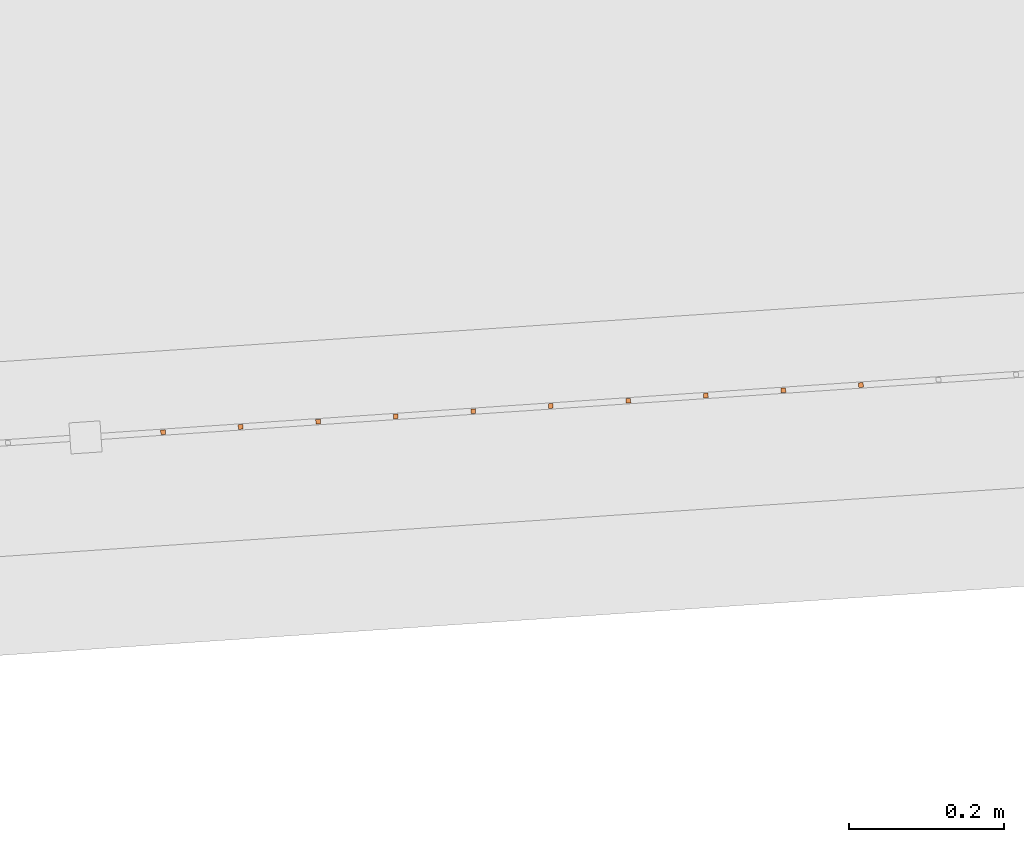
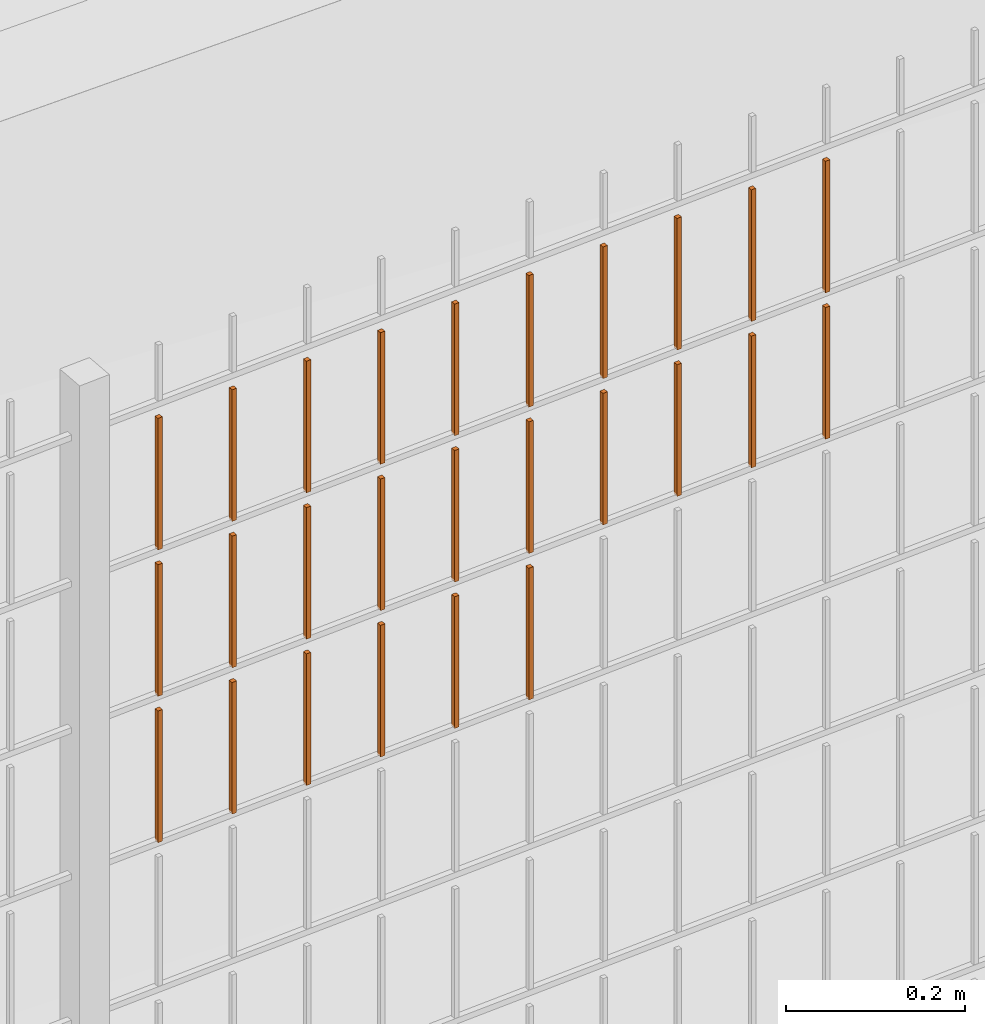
# One storey, part 354 of 1809: 26 proxies, 1 element without a shape of its own.
"""IFC2X3 building model written with IfcOpenShell, lengths in millimetres."""

from ifc_helpers import new_model, entity, si_unit, converted_unit, derived_unit, money_unit, direction, frame, origin_with_axes, place, context, subcontext, project, spatial, faceted_brep, source, transform, mapped, material, type_object, element, aggregate, save


model = new_model("IFC2X3")

# Units and contexts
model_context = context("Model", 3, precision=0.01, world=origin_with_axes(), true_north=direction((0.0, 1.0)))
body_context = subcontext(model_context, "Body", "Model", "MODEL_VIEW")
ifc_project = project(units=[si_unit("LENGTHUNIT", "METRE", prefix="MILLI"), si_unit("AREAUNIT", "SQUARE_METRE"), si_unit("VOLUMEUNIT", "CUBIC_METRE"), converted_unit("PLANEANGLEUNIT", "DEGREE", entity("IfcPlaneAngleMeasure", 0.0174532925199), si_unit("PLANEANGLEUNIT", "RADIAN"), dimensions=[0, 0, 0, 0, 0, 0, 0]), si_unit("SOLIDANGLEUNIT", "STERADIAN"), money_unit("EUR"), converted_unit("TIMEUNIT", "Year", entity("IfcTimeMeasure", 31556926.0), si_unit("TIMEUNIT", "SECOND"), dimensions=[0, 0, 1, 0, 0, 0, 0]), si_unit("MASSUNIT", "GRAM", prefix="KILO"), si_unit("THERMODYNAMICTEMPERATUREUNIT", "DEGREE_CELSIUS"), si_unit("LUMINOUSINTENSITYUNIT", "LUMEN"), si_unit("ENERGYUNIT", "JOULE", prefix="MEGA"), derived_unit("THERMALCONDUCTANCEUNIT", [(si_unit("POWERUNIT", "WATT"), 1), (si_unit("LENGTHUNIT", "METRE"), -1), (si_unit("THERMODYNAMICTEMPERATUREUNIT", "KELVIN"), -1)]), derived_unit("SPECIFICHEATCAPACITYUNIT", [(si_unit("ENERGYUNIT", "JOULE"), 1), (si_unit("MASSUNIT", "GRAM", prefix="KILO"), -1), (si_unit("THERMODYNAMICTEMPERATUREUNIT", "KELVIN"), -1)]), derived_unit("MASSDENSITYUNIT", [(si_unit("MASSUNIT", "GRAM", prefix="KILO"), 1), (si_unit("VOLUMEUNIT", "CUBIC_METRE"), -1)])], contexts=[model_context])

# Site, building, storey
site_placement = place(None, origin_with_axes())
site = spatial("IfcSite", under=ifc_project, at=site_placement, Name="Politse- ja Piirivalveameti ning Päästeameti ühishoone", CompositionType="ELEMENT")
building_placement = place(site_placement, origin_with_axes())
building = spatial("IfcBuilding", under=site, at=building_placement, Name="Politse- ja Piirivalveameti ning Päästeameti ühishoone", CompositionType="ELEMENT")
storey_placement = place(building_placement, origin_with_axes())
storey = spatial("IfcBuildingStorey", under=building, at=storey_placement, Name="Esimene korrus", CompositionType="ELEMENT", Elevation=0.0)

# Proxies
building_element_proxy_type_1 = type_object("IfcBuildingElementProxyType", Name="Railing Type", PredefinedType="NOTDEFINED")
proxy_1_placement = place(storey_placement, frame((89252.001212, -29183.4766571, 203.661247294), z_axis=(0.0, 0.0, 1.0), x_axis=(1.0, 0.0, 0.0)))
proxy_1 = element("IfcBuildingElementProxy", 1, at=proxy_1_placement, inside=storey, type_object=building_element_proxy_type_1, Name="PIIRDEAED")
ifc_material = material(Name="ET-03_Raud")
building_element_proxy_type_2 = type_object("IfcBuildingElementProxyType", Name="IfcBuildingElementProxy", PredefinedType="NOTDEFINED")
shared_shape_1 = source(origin_with_axes(), body_context, "Body", "Brep", [
    faceted_brep([(3.0, 3.0, -0.000752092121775), (-3.0, 3.0, -0.000752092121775), (-3.0, 3.0, 179.99926046), (3.0, 3.0, 179.99926046), (3.0, -3.0, 0.000752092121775), (-3.0, -3.0, 0.000752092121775), (-3.0, -3.0, 180.000764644), (3.0, -3.0, 180.000764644)], [[[0, 1, 2, 3]], [[0, 4, 5, 1]], [[1, 5, 6, 2]], [[3, 2, 6, 7]], [[4, 0, 3, 7]], [[5, 4, 7, 6]]]),
])
proxy_2_placement = place(proxy_1_placement, frame((-26865.4709585, -19112.4359382, 1420.48393555), z_axis=(0.0, 0.0, 1.0), x_axis=(1.0, 0.0, 0.0)))
proxy_2 = element("IfcBuildingElementProxy", 2, at=proxy_2_placement, type_object=building_element_proxy_type_2, material=ifc_material, Name="BALUSTER - 001", context=body_context, shape_type="MappedRepresentation", body=[
    mapped(shared_shape_1, transform((0.0, 0.0, 0.0), x_axis=(-0.0673926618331, 0.997726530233, 0.0), y_axis=(-0.997726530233, -0.0673926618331, 0.0), z_axis=(0.0, 0.0, 1.0))),
])
shared_shape_2 = source(origin_with_axes(), body_context, "Body", "Brep", [
    faceted_brep([(3.0, 3.0, -0.000752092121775), (-3.0, 3.0, -0.000752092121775), (-3.0, 3.0, 179.99926046), (3.0, 3.0, 179.99926046), (3.0, -3.0, 0.000752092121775), (-3.0, -3.0, 0.000752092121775), (-3.0, -3.0, 180.000764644), (3.0, -3.0, 180.000764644)], [[[0, 1, 2, 3]], [[0, 4, 5, 1]], [[1, 5, 6, 2]], [[3, 2, 6, 7]], [[4, 0, 3, 7]], [[5, 4, 7, 6]]]),
])
proxy_3_placement = place(proxy_1_placement, frame((-26865.4709585, -19112.4359382, 1820.48393555), z_axis=(0.0, 0.0, 1.0), x_axis=(1.0, 0.0, 0.0)))
proxy_3 = element("IfcBuildingElementProxy", 3, at=proxy_3_placement, type_object=building_element_proxy_type_2, material=ifc_material, Name="BALUSTER - 001", context=body_context, shape_type="MappedRepresentation", body=[
    mapped(shared_shape_2, transform((0.0, 0.0, 0.0), x_axis=(-0.0673926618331, 0.997726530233, 0.0), y_axis=(-0.997726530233, -0.0673926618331, 0.0), z_axis=(0.0, 0.0, 1.0))),
])
shared_shape_3 = source(origin_with_axes(), body_context, "Body", "Brep", [
    faceted_brep([(3.0, 3.0, -0.000752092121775), (-3.0, 3.0, -0.000752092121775), (-3.0, 3.0, 179.99926046), (3.0, 3.0, 179.99926046), (3.0, -3.0, 0.000752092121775), (-3.0, -3.0, 0.000752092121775), (-3.0, -3.0, 180.000764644), (3.0, -3.0, 180.000764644)], [[[0, 1, 2, 3]], [[0, 4, 5, 1]], [[1, 5, 6, 2]], [[3, 2, 6, 7]], [[4, 0, 3, 7]], [[5, 4, 7, 6]]]),
])
proxy_4_placement = place(proxy_1_placement, frame((-26865.4709585, -19112.4359382, 1620.48393555), z_axis=(0.0, 0.0, 1.0), x_axis=(1.0, 0.0, 0.0)))
proxy_4 = element("IfcBuildingElementProxy", 4, at=proxy_4_placement, type_object=building_element_proxy_type_2, material=ifc_material, Name="BALUSTER - 001", context=body_context, shape_type="MappedRepresentation", body=[
    mapped(shared_shape_3, transform((0.0, 0.0, 0.0), x_axis=(-0.0673926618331, 0.997726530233, 0.0), y_axis=(-0.997726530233, -0.0673926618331, 0.0), z_axis=(0.0, 0.0, 1.0))),
])
shared_shape_4 = source(origin_with_axes(), body_context, "Body", "Brep", [
    faceted_brep([(3.0, 3.0, -0.000752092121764), (-3.0, 3.0, -0.000752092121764), (-3.0, 3.0, 179.99926046), (3.0, 3.0, 179.99926046), (3.0, -3.0, 0.000752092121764), (-3.0, -3.0, 0.000752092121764), (-3.0, -3.0, 180.000764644), (3.0, -3.0, 180.000764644)], [[[0, 1, 2, 3]], [[0, 4, 5, 1]], [[1, 5, 6, 2]], [[3, 2, 6, 7]], [[4, 0, 3, 7]], [[5, 4, 7, 6]]]),
])
proxy_5_placement = place(proxy_1_placement, frame((-26965.2436115, -19119.1752044, 1420.45886581), z_axis=(0.0, 0.0, 1.0), x_axis=(1.0, 0.0, 0.0)))
proxy_5 = element("IfcBuildingElementProxy", 5, at=proxy_5_placement, type_object=building_element_proxy_type_2, material=ifc_material, Name="BALUSTER - 001", context=body_context, shape_type="MappedRepresentation", body=[
    mapped(shared_shape_4, transform((0.0, 0.0, 0.0), x_axis=(-0.0673926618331, 0.997726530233, 0.0), y_axis=(-0.997726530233, -0.0673926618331, 0.0), z_axis=(0.0, 0.0, 1.0))),
])
shared_shape_5 = source(origin_with_axes(), body_context, "Body", "Brep", [
    faceted_brep([(3.0, 3.0, -0.000752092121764), (-3.0, 3.0, -0.000752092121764), (-3.0, 3.0, 179.99926046), (3.0, 3.0, 179.99926046), (3.0, -3.0, 0.000752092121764), (-3.0, -3.0, 0.000752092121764), (-3.0, -3.0, 180.000764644), (3.0, -3.0, 180.000764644)], [[[0, 1, 2, 3]], [[0, 4, 5, 1]], [[1, 5, 6, 2]], [[3, 2, 6, 7]], [[4, 0, 3, 7]], [[5, 4, 7, 6]]]),
])
proxy_6_placement = place(proxy_1_placement, frame((-26765.6983054, -19105.696672, 1820.50900529), z_axis=(0.0, 0.0, 1.0), x_axis=(1.0, 0.0, 0.0)))
proxy_6 = element("IfcBuildingElementProxy", 6, at=proxy_6_placement, type_object=building_element_proxy_type_2, material=ifc_material, Name="BALUSTER - 001", context=body_context, shape_type="MappedRepresentation", body=[
    mapped(shared_shape_5, transform((0.0, 0.0, 0.0), x_axis=(-0.0673926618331, 0.997726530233, 0.0), y_axis=(-0.997726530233, -0.0673926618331, 0.0), z_axis=(0.0, 0.0, 1.0))),
])
shared_shape_6 = source(origin_with_axes(), body_context, "Body", "Brep", [
    faceted_brep([(3.0, 3.0, -0.000752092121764), (-3.0, 3.0, -0.000752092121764), (-3.0, 3.0, 179.99926046), (3.0, 3.0, 179.99926046), (3.0, -3.0, 0.000752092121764), (-3.0, -3.0, 0.000752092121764), (-3.0, -3.0, 180.000764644), (3.0, -3.0, 180.000764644)], [[[0, 1, 2, 3]], [[0, 4, 5, 1]], [[1, 5, 6, 2]], [[3, 2, 6, 7]], [[4, 0, 3, 7]], [[5, 4, 7, 6]]]),
])
proxy_7_placement = place(proxy_1_placement, frame((-26965.2436115, -19119.1752044, 1820.45886581), z_axis=(0.0, 0.0, 1.0), x_axis=(1.0, 0.0, 0.0)))
proxy_7 = element("IfcBuildingElementProxy", 7, at=proxy_7_placement, type_object=building_element_proxy_type_2, material=ifc_material, Name="BALUSTER - 001", context=body_context, shape_type="MappedRepresentation", body=[
    mapped(shared_shape_6, transform((0.0, 0.0, 0.0), x_axis=(-0.0673926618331, 0.997726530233, 0.0), y_axis=(-0.997726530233, -0.0673926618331, 0.0), z_axis=(0.0, 0.0, 1.0))),
])
shared_shape_7 = source(origin_with_axes(), body_context, "Body", "Brep", [
    faceted_brep([(3.0, 3.0, -0.000752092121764), (-3.0, 3.0, -0.000752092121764), (-3.0, 3.0, 179.99926046), (3.0, 3.0, 179.99926046), (3.0, -3.0, 0.000752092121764), (-3.0, -3.0, 0.000752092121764), (-3.0, -3.0, 180.000764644), (3.0, -3.0, 180.000764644)], [[[0, 1, 2, 3]], [[0, 4, 5, 1]], [[1, 5, 6, 2]], [[3, 2, 6, 7]], [[4, 0, 3, 7]], [[5, 4, 7, 6]]]),
])
proxy_8_placement = place(proxy_1_placement, frame((-26566.1529994, -19092.2181397, 1820.55914476), z_axis=(0.0, 0.0, 1.0), x_axis=(1.0, 0.0, 0.0)))
proxy_8 = element("IfcBuildingElementProxy", 8, at=proxy_8_placement, type_object=building_element_proxy_type_2, material=ifc_material, Name="BALUSTER - 001", context=body_context, shape_type="MappedRepresentation", body=[
    mapped(shared_shape_7, transform((0.0, 0.0, 0.0), x_axis=(-0.0673926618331, 0.997726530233, 0.0), y_axis=(-0.997726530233, -0.0673926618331, 0.0), z_axis=(0.0, 0.0, 1.0))),
])
shared_shape_8 = source(origin_with_axes(), body_context, "Body", "Brep", [
    faceted_brep([(3.0, 3.0, -0.000752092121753), (-3.0, 3.0, -0.000752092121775), (-3.0, 3.0, 179.99926046), (3.0, 3.0, 179.99926046), (3.0, -3.0, 0.000752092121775), (-3.0, -3.0, 0.000752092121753), (-3.0, -3.0, 180.000764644), (3.0, -3.0, 180.000764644)], [[[0, 1, 2, 3]], [[0, 4, 5, 1]], [[1, 5, 6, 2]], [[3, 2, 6, 7]], [[4, 0, 3, 7]], [[5, 4, 7, 6]]]),
])
proxy_9_placement = place(proxy_1_placement, frame((-26466.3803464, -19085.4788735, 1820.5842145), z_axis=(0.0, 0.0, 1.0), x_axis=(1.0, 0.0, 0.0)))
proxy_9 = element("IfcBuildingElementProxy", 9, at=proxy_9_placement, type_object=building_element_proxy_type_2, material=ifc_material, Name="BALUSTER - 001", context=body_context, shape_type="MappedRepresentation", body=[
    mapped(shared_shape_8, transform((0.0, 0.0, 0.0), x_axis=(-0.0673926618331, 0.997726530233, 0.0), y_axis=(-0.997726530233, -0.0673926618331, 0.0), z_axis=(0.0, 0.0, 1.0))),
])
shared_shape_9 = source(origin_with_axes(), body_context, "Body", "Brep", [
    faceted_brep([(3.0, 3.0, -0.000752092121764), (-3.0, 3.0, -0.000752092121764), (-3.0, 3.0, 179.99926046), (3.0, 3.0, 179.99926046), (3.0, -3.0, 0.000752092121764), (-3.0, -3.0, 0.000752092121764), (-3.0, -3.0, 180.000764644), (3.0, -3.0, 180.000764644)], [[[0, 1, 2, 3]], [[0, 4, 5, 1]], [[1, 5, 6, 2]], [[3, 2, 6, 7]], [[4, 0, 3, 7]], [[5, 4, 7, 6]]]),
])
proxy_10_placement = place(proxy_1_placement, frame((-26566.1529994, -19092.2181397, 1620.55914476), z_axis=(0.0, 0.0, 1.0), x_axis=(1.0, 0.0, 0.0)))
proxy_10 = element("IfcBuildingElementProxy", 10, at=proxy_10_placement, type_object=building_element_proxy_type_2, material=ifc_material, Name="BALUSTER - 001", context=body_context, shape_type="MappedRepresentation", body=[
    mapped(shared_shape_9, transform((0.0, 0.0, 0.0), x_axis=(-0.0673926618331, 0.997726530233, 0.0), y_axis=(-0.997726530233, -0.0673926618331, 0.0), z_axis=(0.0, 0.0, 1.0))),
])
shared_shape_10 = source(origin_with_axes(), body_context, "Body", "Brep", [
    faceted_brep([(3.0, 3.0, -0.000752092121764), (-3.0, 3.0, -0.000752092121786), (-3.0, 3.0, 179.99926046), (3.0, 3.0, 179.99926046), (3.0, -3.0, 0.000752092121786), (-3.0, -3.0, 0.000752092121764), (-3.0, -3.0, 180.000764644), (3.0, -3.0, 180.000764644)], [[[0, 1, 2, 3]], [[0, 4, 5, 1]], [[1, 5, 6, 2]], [[3, 2, 6, 7]], [[4, 0, 3, 7]], [[5, 4, 7, 6]]]),
])
proxy_11_placement = place(proxy_1_placement, frame((-27164.7889175, -19132.6537368, 1820.40872634), z_axis=(0.0, 0.0, 1.0), x_axis=(1.0, 0.0, 0.0)))
proxy_11 = element("IfcBuildingElementProxy", 11, at=proxy_11_placement, type_object=building_element_proxy_type_2, material=ifc_material, Name="BALUSTER - 001", context=body_context, shape_type="MappedRepresentation", body=[
    mapped(shared_shape_10, transform((0.0, 0.0, 0.0), x_axis=(-0.0673926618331, 0.997726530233, 0.0), y_axis=(-0.997726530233, -0.0673926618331, 0.0), z_axis=(0.0, 0.0, 1.0))),
])
shared_shape_11 = source(origin_with_axes(), body_context, "Body", "Brep", [
    faceted_brep([(3.0, 3.0, -0.000752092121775), (-3.0, 3.0, -0.000752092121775), (-3.0, 3.0, 179.99926046), (3.0, 3.0, 179.99926046), (3.0, -3.0, 0.000752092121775), (-3.0, -3.0, 0.000752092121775), (-3.0, -3.0, 180.000764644), (3.0, -3.0, 180.000764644)], [[[0, 1, 2, 3]], [[0, 4, 5, 1]], [[1, 5, 6, 2]], [[3, 2, 6, 7]], [[4, 0, 3, 7]], [[5, 4, 7, 6]]]),
])
proxy_12_placement = place(proxy_1_placement, frame((-26266.8350403, -19072.0003411, 1820.63435397), z_axis=(0.0, 0.0, 1.0), x_axis=(1.0, 0.0, 0.0)))
proxy_12 = element("IfcBuildingElementProxy", 12, at=proxy_12_placement, type_object=building_element_proxy_type_2, material=ifc_material, Name="BALUSTER - 001", context=body_context, shape_type="MappedRepresentation", body=[
    mapped(shared_shape_11, transform((0.0, 0.0, 0.0), x_axis=(-0.0673926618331, 0.997726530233, 0.0), y_axis=(-0.997726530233, -0.0673926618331, 0.0), z_axis=(0.0, 0.0, 1.0))),
])
shared_shape_12 = source(origin_with_axes(), body_context, "Body", "Brep", [
    faceted_brep([(3.0, 3.0, -0.000752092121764), (-3.0, 3.0, -0.000752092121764), (-3.0, 3.0, 179.99926046), (3.0, 3.0, 179.99926046), (3.0, -3.0, 0.000752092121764), (-3.0, -3.0, 0.000752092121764), (-3.0, -3.0, 180.000764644), (3.0, -3.0, 180.000764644)], [[[0, 1, 2, 3]], [[0, 4, 5, 1]], [[1, 5, 6, 2]], [[3, 2, 6, 7]], [[4, 0, 3, 7]], [[5, 4, 7, 6]]]),
])
proxy_13_placement = place(proxy_1_placement, frame((-26765.6983054, -19105.696672, 1420.50900529), z_axis=(0.0, 0.0, 1.0), x_axis=(1.0, 0.0, 0.0)))
proxy_13 = element("IfcBuildingElementProxy", 13, at=proxy_13_placement, type_object=building_element_proxy_type_2, material=ifc_material, Name="BALUSTER - 001", context=body_context, shape_type="MappedRepresentation", body=[
    mapped(shared_shape_12, transform((0.0, 0.0, 0.0), x_axis=(-0.0673926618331, 0.997726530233, 0.0), y_axis=(-0.997726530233, -0.0673926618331, 0.0), z_axis=(0.0, 0.0, 1.0))),
])
proxy_14_placement = place(proxy_1_placement, frame((-26765.6983054, -19105.696672, 1620.50900529), z_axis=(0.0, 0.0, 1.0), x_axis=(1.0, 0.0, 0.0)))
proxy_14 = element("IfcBuildingElementProxy", 14, at=proxy_14_placement, type_object=building_element_proxy_type_2, material=ifc_material, Name="BALUSTER - 001", context=body_context, shape_type="MappedRepresentation", body=[
    mapped(shared_shape_12, transform((0.0, 0.0, 0.0), x_axis=(-0.0673926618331, 0.997726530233, 0.0), y_axis=(-0.997726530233, -0.0673926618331, 0.0), z_axis=(0.0, 0.0, 1.0))),
])
shared_shape_13 = source(origin_with_axes(), body_context, "Body", "Brep", [
    faceted_brep([(3.0, 3.0, -0.000752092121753), (-3.0, 3.0, -0.000752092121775), (-3.0, 3.0, 179.99926046), (3.0, 3.0, 179.99926046), (3.0, -3.0, 0.000752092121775), (-3.0, -3.0, 0.000752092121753), (-3.0, -3.0, 180.000764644), (3.0, -3.0, 180.000764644)], [[[0, 1, 2, 3]], [[0, 4, 5, 1]], [[1, 5, 6, 2]], [[3, 2, 6, 7]], [[4, 0, 3, 7]], [[5, 4, 7, 6]]]),
])
proxy_15_placement = place(proxy_1_placement, frame((-26366.6076933, -19078.7396073, 1620.60928423), z_axis=(0.0, 0.0, 1.0), x_axis=(1.0, 0.0, 0.0)))
proxy_15 = element("IfcBuildingElementProxy", 15, at=proxy_15_placement, type_object=building_element_proxy_type_2, material=ifc_material, Name="BALUSTER - 001", context=body_context, shape_type="MappedRepresentation", body=[
    mapped(shared_shape_13, transform((0.0, 0.0, 0.0), x_axis=(-0.0673926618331, 0.997726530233, 0.0), y_axis=(-0.997726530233, -0.0673926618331, 0.0), z_axis=(0.0, 0.0, 1.0))),
])
shared_shape_14 = source(origin_with_axes(), body_context, "Body", "Brep", [
    faceted_brep([(3.0, 3.0, -0.000752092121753), (-3.0, 3.0, -0.000752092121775), (-3.0, 3.0, 179.99926046), (3.0, 3.0, 179.99926046), (3.0, -3.0, 0.000752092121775), (-3.0, -3.0, 0.000752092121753), (-3.0, -3.0, 180.000764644), (3.0, -3.0, 180.000764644)], [[[0, 1, 2, 3]], [[0, 4, 5, 1]], [[1, 5, 6, 2]], [[3, 2, 6, 7]], [[4, 0, 3, 7]], [[5, 4, 7, 6]]]),
])
proxy_16_placement = place(proxy_1_placement, frame((-26466.3803464, -19085.4788735, 1620.5842145), z_axis=(0.0, 0.0, 1.0), x_axis=(1.0, 0.0, 0.0)))
proxy_16 = element("IfcBuildingElementProxy", 16, at=proxy_16_placement, type_object=building_element_proxy_type_2, material=ifc_material, Name="BALUSTER - 001", context=body_context, shape_type="MappedRepresentation", body=[
    mapped(shared_shape_14, transform((0.0, 0.0, 0.0), x_axis=(-0.0673926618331, 0.997726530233, 0.0), y_axis=(-0.997726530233, -0.0673926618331, 0.0), z_axis=(0.0, 0.0, 1.0))),
])
shared_shape_15 = source(origin_with_axes(), body_context, "Body", "Brep", [
    faceted_brep([(3.0, 3.0, -0.000752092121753), (-3.0, 3.0, -0.000752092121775), (-3.0, 3.0, 179.99926046), (3.0, 3.0, 179.99926046), (3.0, -3.0, 0.000752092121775), (-3.0, -3.0, 0.000752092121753), (-3.0, -3.0, 180.000764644), (3.0, -3.0, 180.000764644)], [[[0, 1, 2, 3]], [[0, 4, 5, 1]], [[1, 5, 6, 2]], [[3, 2, 6, 7]], [[4, 0, 3, 7]], [[5, 4, 7, 6]]]),
])
proxy_17_placement = place(proxy_1_placement, frame((-26665.9256524, -19098.9574059, 1420.53407502), z_axis=(0.0, 0.0, 1.0), x_axis=(1.0, 0.0, 0.0)))
proxy_17 = element("IfcBuildingElementProxy", 17, at=proxy_17_placement, type_object=building_element_proxy_type_2, material=ifc_material, Name="BALUSTER - 001", context=body_context, shape_type="MappedRepresentation", body=[
    mapped(shared_shape_15, transform((0.0, 0.0, 0.0), x_axis=(-0.0673926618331, 0.997726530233, 0.0), y_axis=(-0.997726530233, -0.0673926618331, 0.0), z_axis=(0.0, 0.0, 1.0))),
])
proxy_18_placement = place(proxy_1_placement, frame((-26665.9256524, -19098.9574059, 1620.53407502), z_axis=(0.0, 0.0, 1.0), x_axis=(1.0, 0.0, 0.0)))
proxy_18 = element("IfcBuildingElementProxy", 18, at=proxy_18_placement, type_object=building_element_proxy_type_2, material=ifc_material, Name="BALUSTER - 001", context=body_context, shape_type="MappedRepresentation", body=[
    mapped(shared_shape_15, transform((0.0, 0.0, 0.0), x_axis=(-0.0673926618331, 0.997726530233, 0.0), y_axis=(-0.997726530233, -0.0673926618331, 0.0), z_axis=(0.0, 0.0, 1.0))),
])
shared_shape_16 = source(origin_with_axes(), body_context, "Body", "Brep", [
    faceted_brep([(3.0, 3.0, -0.000752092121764), (-3.0, 3.0, -0.000752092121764), (-3.0, 3.0, 179.99926046), (3.0, 3.0, 179.99926046), (3.0, -3.0, 0.000752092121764), (-3.0, -3.0, 0.000752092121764), (-3.0, -3.0, 180.000764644), (3.0, -3.0, 180.000764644)], [[[0, 1, 2, 3]], [[0, 4, 5, 1]], [[1, 5, 6, 2]], [[3, 2, 6, 7]], [[4, 0, 3, 7]], [[5, 4, 7, 6]]]),
])
proxy_19_placement = place(proxy_1_placement, frame((-27065.0162645, -19125.9144706, 1420.43379607), z_axis=(0.0, 0.0, 1.0), x_axis=(1.0, 0.0, 0.0)))
proxy_19 = element("IfcBuildingElementProxy", 19, at=proxy_19_placement, type_object=building_element_proxy_type_2, material=ifc_material, Name="BALUSTER - 001", context=body_context, shape_type="MappedRepresentation", body=[
    mapped(shared_shape_16, transform((0.0, 0.0, 0.0), x_axis=(-0.0673926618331, 0.997726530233, 0.0), y_axis=(-0.997726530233, -0.0673926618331, 0.0), z_axis=(0.0, 0.0, 1.0))),
])
proxy_20_placement = place(proxy_1_placement, frame((-27065.0162645, -19125.9144706, 1620.43379607), z_axis=(0.0, 0.0, 1.0), x_axis=(1.0, 0.0, 0.0)))
proxy_20 = element("IfcBuildingElementProxy", 20, at=proxy_20_placement, type_object=building_element_proxy_type_2, material=ifc_material, Name="BALUSTER - 001", context=body_context, shape_type="MappedRepresentation", body=[
    mapped(shared_shape_16, transform((0.0, 0.0, 0.0), x_axis=(-0.0673926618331, 0.997726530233, 0.0), y_axis=(-0.997726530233, -0.0673926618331, 0.0), z_axis=(0.0, 0.0, 1.0))),
])
shared_shape_17 = source(origin_with_axes(), body_context, "Body", "Brep", [
    faceted_brep([(3.0, 3.0, -0.000752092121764), (-3.0, 3.0, -0.000752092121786), (-3.0, 3.0, 179.99926046), (3.0, 3.0, 179.99926046), (3.0, -3.0, 0.000752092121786), (-3.0, -3.0, 0.000752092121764), (-3.0, -3.0, 180.000764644), (3.0, -3.0, 180.000764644)], [[[0, 1, 2, 3]], [[0, 4, 5, 1]], [[1, 5, 6, 2]], [[3, 2, 6, 7]], [[4, 0, 3, 7]], [[5, 4, 7, 6]]]),
])
proxy_21_placement = place(proxy_1_placement, frame((-27164.7889175, -19132.6537368, 1420.40872634), z_axis=(0.0, 0.0, 1.0), x_axis=(1.0, 0.0, 0.0)))
proxy_21 = element("IfcBuildingElementProxy", 21, at=proxy_21_placement, type_object=building_element_proxy_type_2, material=ifc_material, Name="BALUSTER - 001", context=body_context, shape_type="MappedRepresentation", body=[
    mapped(shared_shape_17, transform((0.0, 0.0, 0.0), x_axis=(-0.0673926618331, 0.997726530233, 0.0), y_axis=(-0.997726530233, -0.0673926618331, 0.0), z_axis=(0.0, 0.0, 1.0))),
])
proxy_22_placement = place(proxy_1_placement, frame((-27164.7889175, -19132.6537368, 1620.40872634), z_axis=(0.0, 0.0, 1.0), x_axis=(1.0, 0.0, 0.0)))
proxy_22 = element("IfcBuildingElementProxy", 22, at=proxy_22_placement, type_object=building_element_proxy_type_2, material=ifc_material, Name="BALUSTER - 001", context=body_context, shape_type="MappedRepresentation", body=[
    mapped(shared_shape_17, transform((0.0, 0.0, 0.0), x_axis=(-0.0673926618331, 0.997726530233, 0.0), y_axis=(-0.997726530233, -0.0673926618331, 0.0), z_axis=(0.0, 0.0, 1.0))),
])
shared_shape_18 = source(origin_with_axes(), body_context, "Body", "Brep", [
    faceted_brep([(3.0, 3.0, -0.000752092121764), (-3.0, 3.0, -0.000752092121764), (-3.0, 3.0, 179.99926046), (3.0, 3.0, 179.99926046), (3.0, -3.0, 0.000752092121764), (-3.0, -3.0, 0.000752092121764), (-3.0, -3.0, 180.000764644), (3.0, -3.0, 180.000764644)], [[[0, 1, 2, 3]], [[0, 4, 5, 1]], [[1, 5, 6, 2]], [[3, 2, 6, 7]], [[4, 0, 3, 7]], [[5, 4, 7, 6]]]),
])
proxy_23_placement = place(proxy_1_placement, frame((-26965.2436115, -19119.1752044, 1620.45886581), z_axis=(0.0, 0.0, 1.0), x_axis=(1.0, 0.0, 0.0)))
proxy_23 = element("IfcBuildingElementProxy", 23, at=proxy_23_placement, type_object=building_element_proxy_type_2, material=ifc_material, Name="BALUSTER - 001", context=body_context, shape_type="MappedRepresentation", body=[
    mapped(shared_shape_18, transform((0.0, 0.0, 0.0), x_axis=(-0.0673926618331, 0.997726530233, 0.0), y_axis=(-0.997726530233, -0.0673926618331, 0.0), z_axis=(0.0, 0.0, 1.0))),
])
shared_shape_19 = source(origin_with_axes(), body_context, "Body", "Brep", [
    faceted_brep([(3.0, 3.0, -0.000752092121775), (-3.0, 3.0, -0.000752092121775), (-3.0, 3.0, 179.99926046), (3.0, 3.0, 179.99926046), (3.0, -3.0, 0.000752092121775), (-3.0, -3.0, 0.000752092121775), (-3.0, -3.0, 180.000764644), (3.0, -3.0, 180.000764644)], [[[0, 1, 2, 3]], [[0, 4, 5, 1]], [[1, 5, 6, 2]], [[3, 2, 6, 7]], [[4, 0, 3, 7]], [[5, 4, 7, 6]]]),
])
proxy_24_placement = place(proxy_1_placement, frame((-26266.8350403, -19072.0003411, 1620.63435397), z_axis=(0.0, 0.0, 1.0), x_axis=(1.0, 0.0, 0.0)))
proxy_24 = element("IfcBuildingElementProxy", 24, at=proxy_24_placement, type_object=building_element_proxy_type_2, material=ifc_material, Name="BALUSTER - 001", context=body_context, shape_type="MappedRepresentation", body=[
    mapped(shared_shape_19, transform((0.0, 0.0, 0.0), x_axis=(-0.0673926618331, 0.997726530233, 0.0), y_axis=(-0.997726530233, -0.0673926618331, 0.0), z_axis=(0.0, 0.0, 1.0))),
])
shared_shape_20 = source(origin_with_axes(), body_context, "Body", "Brep", [
    faceted_brep([(3.0, 3.0, -0.000752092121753), (-3.0, 3.0, -0.000752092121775), (-3.0, 3.0, 179.99926046), (3.0, 3.0, 179.99926046), (3.0, -3.0, 0.000752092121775), (-3.0, -3.0, 0.000752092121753), (-3.0, -3.0, 180.000764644), (3.0, -3.0, 180.000764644)], [[[0, 1, 2, 3]], [[0, 4, 5, 1]], [[1, 5, 6, 2]], [[3, 2, 6, 7]], [[4, 0, 3, 7]], [[5, 4, 7, 6]]]),
])
proxy_25_placement = place(proxy_1_placement, frame((-26366.6076933, -19078.7396073, 1820.60928423), z_axis=(0.0, 0.0, 1.0), x_axis=(1.0, 0.0, 0.0)))
proxy_25 = element("IfcBuildingElementProxy", 25, at=proxy_25_placement, type_object=building_element_proxy_type_2, material=ifc_material, Name="BALUSTER - 001", context=body_context, shape_type="MappedRepresentation", body=[
    mapped(shared_shape_20, transform((0.0, 0.0, 0.0), x_axis=(-0.0673926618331, 0.997726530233, 0.0), y_axis=(-0.997726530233, -0.0673926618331, 0.0), z_axis=(0.0, 0.0, 1.0))),
])
shared_shape_21 = source(origin_with_axes(), body_context, "Body", "Brep", [
    faceted_brep([(3.0, 3.0, -0.000752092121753), (-3.0, 3.0, -0.000752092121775), (-3.0, 3.0, 179.99926046), (3.0, 3.0, 179.99926046), (3.0, -3.0, 0.000752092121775), (-3.0, -3.0, 0.000752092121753), (-3.0, -3.0, 180.000764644), (3.0, -3.0, 180.000764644)], [[[0, 1, 2, 3]], [[0, 4, 5, 1]], [[1, 5, 6, 2]], [[3, 2, 6, 7]], [[4, 0, 3, 7]], [[5, 4, 7, 6]]]),
])
proxy_26_placement = place(proxy_1_placement, frame((-26665.9256524, -19098.9574059, 1820.53407502), z_axis=(0.0, 0.0, 1.0), x_axis=(1.0, 0.0, 0.0)))
proxy_26 = element("IfcBuildingElementProxy", 26, at=proxy_26_placement, type_object=building_element_proxy_type_2, material=ifc_material, Name="BALUSTER - 001", context=body_context, shape_type="MappedRepresentation", body=[
    mapped(shared_shape_21, transform((0.0, 0.0, 0.0), x_axis=(-0.0673926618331, 0.997726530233, 0.0), y_axis=(-0.997726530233, -0.0673926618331, 0.0), z_axis=(0.0, 0.0, 1.0))),
])
shared_shape_22 = source(origin_with_axes(), body_context, "Body", "Brep", [
    faceted_brep([(3.0, 3.0, -0.000752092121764), (-3.0, 3.0, -0.000752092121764), (-3.0, 3.0, 179.99926046), (3.0, 3.0, 179.99926046), (3.0, -3.0, 0.000752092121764), (-3.0, -3.0, 0.000752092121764), (-3.0, -3.0, 180.000764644), (3.0, -3.0, 180.000764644)], [[[0, 1, 2, 3]], [[0, 4, 5, 1]], [[1, 5, 6, 2]], [[3, 2, 6, 7]], [[4, 0, 3, 7]], [[5, 4, 7, 6]]]),
])
proxy_27_placement = place(proxy_1_placement, frame((-27065.0162645, -19125.9144706, 1820.43379607), z_axis=(0.0, 0.0, 1.0), x_axis=(1.0, 0.0, 0.0)))
proxy_27 = element("IfcBuildingElementProxy", 27, at=proxy_27_placement, type_object=building_element_proxy_type_2, material=ifc_material, Name="BALUSTER - 001", context=body_context, shape_type="MappedRepresentation", body=[
    mapped(shared_shape_22, transform((0.0, 0.0, 0.0), x_axis=(-0.0673926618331, 0.997726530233, 0.0), y_axis=(-0.997726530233, -0.0673926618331, 0.0), z_axis=(0.0, 0.0, 1.0))),
])
aggregate(proxy_1, [proxy_17, proxy_13, proxy_2, proxy_5, proxy_19, proxy_21, proxy_24, proxy_15, proxy_16, proxy_10, proxy_18, proxy_14, proxy_4, proxy_23, proxy_20, proxy_22, proxy_12, proxy_25, proxy_9, proxy_8, proxy_26, proxy_6, proxy_3, proxy_7, proxy_27, proxy_11])

save(model, "model.ifc")
